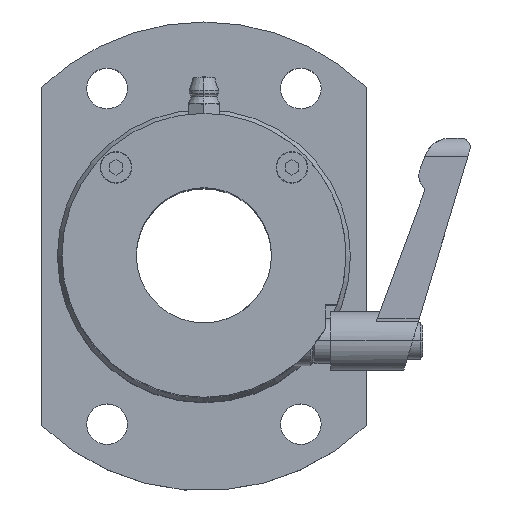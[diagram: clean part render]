
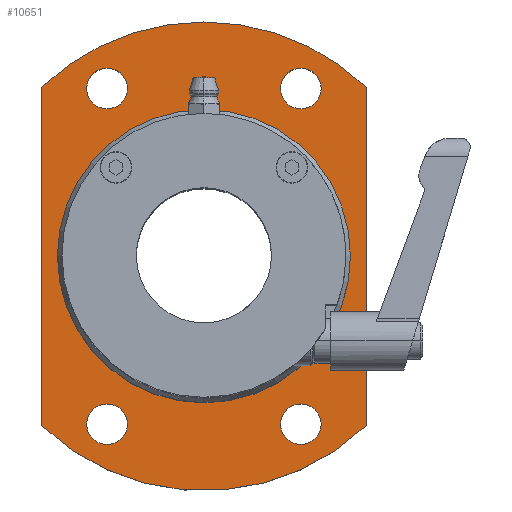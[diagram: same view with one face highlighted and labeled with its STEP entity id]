
A CAD part, top view. The second image highlights one B-rep face of the part: STEP entity #10651.
In plain terms, the highlighted planar face has unit normal (0, 0, 1).
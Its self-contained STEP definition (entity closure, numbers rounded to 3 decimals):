
#43 = VERTEX_POINT ( 'NONE', #10865 ) ;
#111 = ORIENTED_EDGE ( 'NONE', *, *, #9941, .T. ) ;
#204 = DIRECTION ( 'NONE',  ( 0., 0., -1. ) ) ;
#205 = EDGE_CURVE ( 'NONE', #7805, #1324, #4295, .T. ) ;
#290 = EDGE_LOOP ( 'NONE', ( #7096, #1862 ) ) ;
#294 = EDGE_CURVE ( 'NONE', #9579, #43, #3044, .T. ) ;
#380 = CARTESIAN_POINT ( 'NONE',  ( 14.424, -35.207, 96. ) ) ;
#525 = EDGE_CURVE ( 'NONE', #10911, #1324, #1025, .T. ) ;
#581 = CIRCLE ( 'NONE', #769, 4.5 ) ;
#662 = ORIENTED_EDGE ( 'NONE', *, *, #5869, .F. ) ;
#769 = AXIS2_PLACEMENT_3D ( 'NONE', #6452, #8172, #6571 ) ;
#1025 = CIRCLE ( 'NONE', #1068, 52. ) ;
#1068 = AXIS2_PLACEMENT_3D ( 'NONE', #4387, #5365, #2729 ) ;
#1148 = AXIS2_PLACEMENT_3D ( 'NONE', #4550, #2151, #3745 ) ;
#1212 = DIRECTION ( 'NONE',  ( 0., 1., 0. ) ) ;
#1271 = CIRCLE ( 'NONE', #8408, 4.5 ) ;
#1280 = DIRECTION ( 'NONE',  ( 0., -1., 0. ) ) ;
#1324 = VERTEX_POINT ( 'NONE', #1721 ) ;
#1331 = ORIENTED_EDGE ( 'NONE', *, *, #5332, .T. ) ;
#1332 = CARTESIAN_POINT ( 'NONE',  ( -7.076, 54.033, 96. ) ) ;
#1341 = DIRECTION ( 'NONE',  ( 0., 0., -1. ) ) ;
#1511 = DIRECTION ( 'NONE',  ( 1., 0., 0. ) ) ;
#1556 = FACE_BOUND ( 'NONE', #1689, .T. ) ;
#1689 = EDGE_LOOP ( 'NONE', ( #1331, #4139 ) ) ;
#1721 = CARTESIAN_POINT ( 'NONE',  ( 28.924, 39.556, 96. ) ) ;
#1844 = EDGE_LOOP ( 'NONE', ( #2423, #8134, #11087, #5478, #662 ) ) ;
#1862 = ORIENTED_EDGE ( 'NONE', *, *, #3512, .T. ) ;
#1979 = AXIS2_PLACEMENT_3D ( 'NONE', #6931, #4233, #1511 ) ;
#2091 = DIRECTION ( 'NONE',  ( 0., 0., -1. ) ) ;
#2147 = CIRCLE ( 'NONE', #5800, 4.5 ) ;
#2151 = DIRECTION ( 'NONE',  ( 0., 0., -1. ) ) ;
#2165 = DIRECTION ( 'NONE',  ( 1., 0., 0. ) ) ;
#2310 = CARTESIAN_POINT ( 'NONE',  ( 9.924, 39.272, 96. ) ) ;
#2322 = CARTESIAN_POINT ( 'NONE',  ( 28.924, -35.491, 96. ) ) ;
#2358 = FACE_BOUND ( 'NONE', #2399, .T. ) ;
#2399 = EDGE_LOOP ( 'NONE', ( #111, #4562 ) ) ;
#2413 = CIRCLE ( 'NONE', #4958, 4.5 ) ;
#2418 = PLANE ( 'NONE',  #10983 ) ;
#2423 = ORIENTED_EDGE ( 'NONE', *, *, #205, .T. ) ;
#2519 = CARTESIAN_POINT ( 'NONE',  ( -7.076, 2.033, 96. ) ) ;
#2576 = CIRCLE ( 'NONE', #4022, 32.5 ) ;
#2596 = VERTEX_POINT ( 'NONE', #5235 ) ;
#2600 = VERTEX_POINT ( 'NONE', #5128 ) ;
#2696 = DIRECTION ( 'NONE',  ( 0., 0., -1. ) ) ;
#2709 = AXIS2_PLACEMENT_3D ( 'NONE', #9766, #2696, #8024 ) ;
#2729 = DIRECTION ( 'NONE',  ( 0., 1., 0. ) ) ;
#2744 = VERTEX_POINT ( 'NONE', #4249 ) ;
#2869 = CARTESIAN_POINT ( 'NONE',  ( 28.924, -35.491, 96. ) ) ;
#2964 = CARTESIAN_POINT ( 'NONE',  ( -28.576, -35.207, 96. ) ) ;
#3044 = LINE ( 'NONE', #8377, #9975 ) ;
#3049 = EDGE_CURVE ( 'NONE', #10905, #10868, #8384, .T. ) ;
#3129 = CIRCLE ( 'NONE', #5689, 52. ) ;
#3251 = AXIS2_PLACEMENT_3D ( 'NONE', #380, #2091, #5575 ) ;
#3400 = ORIENTED_EDGE ( 'NONE', *, *, #4262, .T. ) ;
#3414 = DIRECTION ( 'NONE',  ( 0., 1., 0. ) ) ;
#3512 = EDGE_CURVE ( 'NONE', #8127, #4734, #1271, .T. ) ;
#3738 = CARTESIAN_POINT ( 'NONE',  ( -28.576, -35.207, 96. ) ) ;
#3745 = DIRECTION ( 'NONE',  ( 1., 0., 0. ) ) ;
#4022 = AXIS2_PLACEMENT_3D ( 'NONE', #5773, #1341, #7327 ) ;
#4057 = CARTESIAN_POINT ( 'NONE',  ( -24.076, -35.207, 96. ) ) ;
#4139 = ORIENTED_EDGE ( 'NONE', *, *, #9959, .T. ) ;
#4233 = DIRECTION ( 'NONE',  ( 0., 0., -1. ) ) ;
#4249 = CARTESIAN_POINT ( 'NONE',  ( -24.076, 39.272, 96. ) ) ;
#4262 = EDGE_CURVE ( 'NONE', #2596, #2744, #8287, .T. ) ;
#4279 = DIRECTION ( 'NONE',  ( 1., 0., 0. ) ) ;
#4295 = LINE ( 'NONE', #2869, #7202 ) ;
#4334 = CARTESIAN_POINT ( 'NONE',  ( -7.076, 44.283, 96. ) ) ;
#4387 = CARTESIAN_POINT ( 'NONE',  ( -7.076, 2.033, 96. ) ) ;
#4550 = CARTESIAN_POINT ( 'NONE',  ( -28.576, 39.272, 96. ) ) ;
#4562 = ORIENTED_EDGE ( 'NONE', *, *, #9334, .T. ) ;
#4734 = VERTEX_POINT ( 'NONE', #11295 ) ;
#4885 = CIRCLE ( 'NONE', #11314, 32.5 ) ;
#4958 = AXIS2_PLACEMENT_3D ( 'NONE', #3738, #204, #6312 ) ;
#5128 = CARTESIAN_POINT ( 'NONE',  ( -33.076, -35.207, 96. ) ) ;
#5166 = ORIENTED_EDGE ( 'NONE', *, *, #10440, .T. ) ;
#5203 = DIRECTION ( 'NONE',  ( 0., 0., -1. ) ) ;
#5205 = DIRECTION ( 'NONE',  ( 0., 0., 1. ) ) ;
#5235 = CARTESIAN_POINT ( 'NONE',  ( -33.076, 39.272, 96. ) ) ;
#5297 = CIRCLE ( 'NONE', #11195, 52. ) ;
#5332 = EDGE_CURVE ( 'NONE', #9351, #2600, #2413, .T. ) ;
#5365 = DIRECTION ( 'NONE',  ( 0., 0., -1. ) ) ;
#5478 = ORIENTED_EDGE ( 'NONE', *, *, #294, .T. ) ;
#5539 = CARTESIAN_POINT ( 'NONE',  ( 9.924, -35.207, 96. ) ) ;
#5575 = DIRECTION ( 'NONE',  ( 1., 0., 0. ) ) ;
#5689 = AXIS2_PLACEMENT_3D ( 'NONE', #8135, #9060, #1212 ) ;
#5770 = CARTESIAN_POINT ( 'NONE',  ( -7.076, 2.033, 96. ) ) ;
#5773 = CARTESIAN_POINT ( 'NONE',  ( -7.076, 2.033, 96. ) ) ;
#5800 = AXIS2_PLACEMENT_3D ( 'NONE', #2964, #8175, #2165 ) ;
#5869 = EDGE_CURVE ( 'NONE', #7805, #43, #3129, .T. ) ;
#6312 = DIRECTION ( 'NONE',  ( 1., 0., 0. ) ) ;
#6452 = CARTESIAN_POINT ( 'NONE',  ( 14.424, 39.272, 96. ) ) ;
#6571 = DIRECTION ( 'NONE',  ( 1., 0., 0. ) ) ;
#6704 = FACE_BOUND ( 'NONE', #290, .T. ) ;
#6754 = DIRECTION ( 'NONE',  ( 0., 1., 0. ) ) ;
#6763 = FACE_BOUND ( 'NONE', #7845, .T. ) ;
#6931 = CARTESIAN_POINT ( 'NONE',  ( 14.424, -35.207, 96. ) ) ;
#7046 = EDGE_CURVE ( 'NONE', #9579, #10911, #5297, .T. ) ;
#7096 = ORIENTED_EDGE ( 'NONE', *, *, #8417, .T. ) ;
#7202 = VECTOR ( 'NONE', #9821, 1000. ) ;
#7250 = EDGE_LOOP ( 'NONE', ( #5166, #3400 ) ) ;
#7303 = VERTEX_POINT ( 'NONE', #9910 ) ;
#7314 = CARTESIAN_POINT ( 'NONE',  ( 18.924, -35.207, 96. ) ) ;
#7327 = DIRECTION ( 'NONE',  ( 0., 1., 0. ) ) ;
#7805 = VERTEX_POINT ( 'NONE', #2322 ) ;
#7818 = CARTESIAN_POINT ( 'NONE',  ( 14.424, 39.272, 96. ) ) ;
#7845 = EDGE_LOOP ( 'NONE', ( #10658, #10898 ) ) ;
#8019 = CIRCLE ( 'NONE', #2709, 4.5 ) ;
#8024 = DIRECTION ( 'NONE',  ( 1., 0., 0. ) ) ;
#8127 = VERTEX_POINT ( 'NONE', #2310 ) ;
#8134 = ORIENTED_EDGE ( 'NONE', *, *, #525, .F. ) ;
#8135 = CARTESIAN_POINT ( 'NONE',  ( -7.076, 2.033, 96. ) ) ;
#8172 = DIRECTION ( 'NONE',  ( 0., 0., -1. ) ) ;
#8175 = DIRECTION ( 'NONE',  ( 0., 0., -1. ) ) ;
#8285 = CARTESIAN_POINT ( 'NONE',  ( -43.076, 39.556, 96. ) ) ;
#8287 = CIRCLE ( 'NONE', #1148, 4.5 ) ;
#8377 = CARTESIAN_POINT ( 'NONE',  ( -43.076, 39.556, 96. ) ) ;
#8384 = CIRCLE ( 'NONE', #1979, 4.5 ) ;
#8408 = AXIS2_PLACEMENT_3D ( 'NONE', #7818, #11337, #8805 ) ;
#8417 = EDGE_CURVE ( 'NONE', #4734, #8127, #581, .T. ) ;
#8426 = DIRECTION ( 'NONE',  ( 0., 0., -1. ) ) ;
#8805 = DIRECTION ( 'NONE',  ( 1., 0., 0. ) ) ;
#9060 = DIRECTION ( 'NONE',  ( 0., 0., -1. ) ) ;
#9196 = CARTESIAN_POINT ( 'NONE',  ( -7.076, 34.533, 96. ) ) ;
#9317 = CIRCLE ( 'NONE', #3251, 4.5 ) ;
#9334 = EDGE_CURVE ( 'NONE', #7303, #9371, #2576, .T. ) ;
#9351 = VERTEX_POINT ( 'NONE', #4057 ) ;
#9371 = VERTEX_POINT ( 'NONE', #9196 ) ;
#9579 = VERTEX_POINT ( 'NONE', #8285 ) ;
#9766 = CARTESIAN_POINT ( 'NONE',  ( -28.576, 39.272, 96. ) ) ;
#9821 = DIRECTION ( 'NONE',  ( 0., 1., 0. ) ) ;
#9910 = CARTESIAN_POINT ( 'NONE',  ( -7.076, -30.467, 96. ) ) ;
#9941 = EDGE_CURVE ( 'NONE', #9371, #7303, #4885, .T. ) ;
#9959 = EDGE_CURVE ( 'NONE', #2600, #9351, #2147, .T. ) ;
#9975 = VECTOR ( 'NONE', #1280, 1000. ) ;
#10220 = EDGE_CURVE ( 'NONE', #10868, #10905, #9317, .T. ) ;
#10276 = FACE_BOUND ( 'NONE', #7250, .T. ) ;
#10440 = EDGE_CURVE ( 'NONE', #2744, #2596, #8019, .T. ) ;
#10651 = ADVANCED_FACE ( 'NONE', ( #11088, #6763, #10276, #6704, #1556, #2358 ), #2418, .T. ) ;
#10658 = ORIENTED_EDGE ( 'NONE', *, *, #3049, .T. ) ;
#10865 = CARTESIAN_POINT ( 'NONE',  ( -43.076, -35.491, 96. ) ) ;
#10868 = VERTEX_POINT ( 'NONE', #5539 ) ;
#10898 = ORIENTED_EDGE ( 'NONE', *, *, #10220, .T. ) ;
#10905 = VERTEX_POINT ( 'NONE', #7314 ) ;
#10911 = VERTEX_POINT ( 'NONE', #1332 ) ;
#10983 = AXIS2_PLACEMENT_3D ( 'NONE', #4334, #5205, #4279 ) ;
#11087 = ORIENTED_EDGE ( 'NONE', *, *, #7046, .F. ) ;
#11088 = FACE_OUTER_BOUND ( 'NONE', #1844, .T. ) ;
#11195 = AXIS2_PLACEMENT_3D ( 'NONE', #5770, #8426, #6754 ) ;
#11295 = CARTESIAN_POINT ( 'NONE',  ( 18.924, 39.272, 96. ) ) ;
#11314 = AXIS2_PLACEMENT_3D ( 'NONE', #2519, #5203, #3414 ) ;
#11337 = DIRECTION ( 'NONE',  ( 0., 0., -1. ) ) ;
